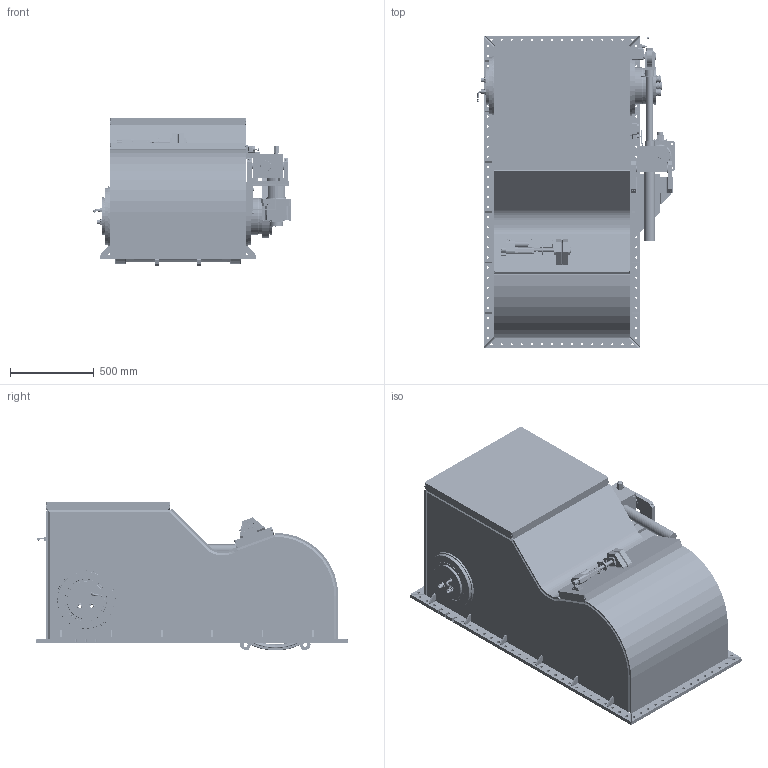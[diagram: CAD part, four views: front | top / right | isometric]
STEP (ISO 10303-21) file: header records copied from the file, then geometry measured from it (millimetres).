
FILE_DESCRIPTION(/* description */ (''),/* implementation_level */ '2;1');
FILE_NAME(/* name */ 'Q:\THRUSTERS\THRUSTER SALES & SUPPORT DOCS\THRUSTER Sales\E-S\E-0600-S\E-0600-S-RETRACTED.stp',/* time_stamp */ '2021-03-24T13:59:21+00:00',/* author */ ('Barney.Webborn'),/* organization */ (''),/* preprocessor_version */ 'ST-DEVELOPER v17.2',/* originating_system */ 'Autodesk Inventor 2019',/* authorisation */ '');
FILE_SCHEMA (('AUTOMOTIVE_DESIGN { 1 0 10303 214 3 1 1 }'));
Length unit declared in the file: millimetre
Products named in the file (1): E-0600-S_Shrinkwrap_1
Bounding box: 1182.75 x 1863 x 887.28 mm (x, y, z)
Volume: 184047026.9 mm3; surface area: 23545071.5 mm2
Topology: 7 solids, 7 shells, 3494 faces, 9260 edges, 6092 vertices
Faces by surface type: plane 2031, cylinder 1047, cone 257, torus 88, bspline 44, sphere 27
Full cylindrical faces by diameter (mm): 0.5 x5, 1 x9, 3 x6, 5 x1, 5.5 x4, 5.6 x4, 5.9 x8, 6 x10, 7 x8, 7.2 x2, 7.6 x8, 8 x10, 8.5 x8, 9.2 x4, 9.5 x1, 9.95 x6, 10.56 x1, 11.3 x1, 12 x2, 12.3 x3, 12.4 x24, 12.5 x36, 13 x107, 13.5 x8, 14.662 x2, 14.9 x1, 15.25 x1, 15.3 x1, 15.4 x8, 16 x5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
Entity records: 116712 total; most frequent: CARTESIAN_POINT 23634, DIRECTION 19063, ORIENTED_EDGE 18384, EDGE_CURVE 9192, AXIS2_PLACEMENT_3D 6970, VERTEX_POINT 6093, LINE 5123, VECTOR 5123
